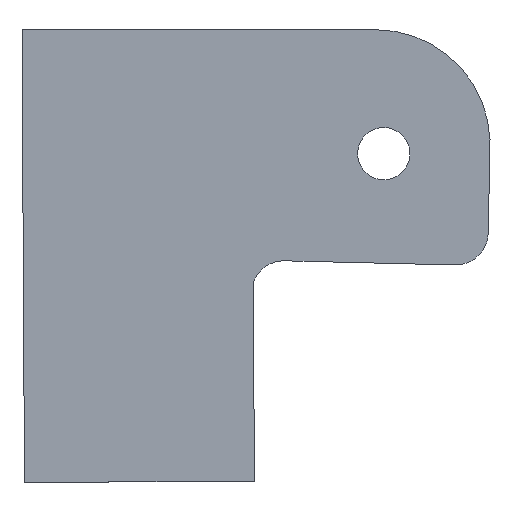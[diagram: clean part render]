
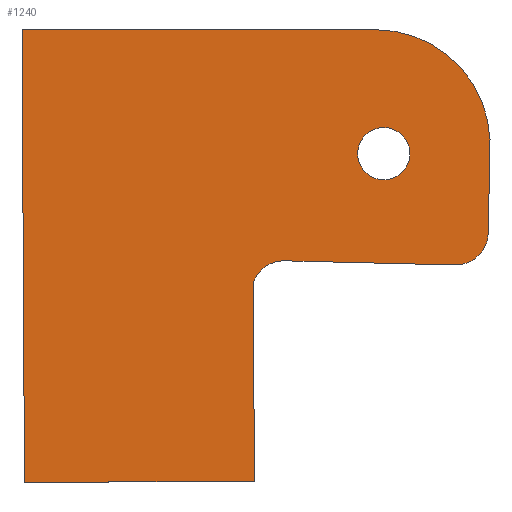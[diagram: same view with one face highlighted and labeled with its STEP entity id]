
A CAD part, left-side view. The second image highlights one B-rep face of the part: STEP entity #1240.
In plain terms, the highlighted planar face has unit normal (-1, 0, 0).
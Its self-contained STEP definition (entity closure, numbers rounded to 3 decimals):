
#42=FACE_BOUND('',#162,.T.);
#69=CIRCLE('',#1329,2.);
#70=CIRCLE('',#1330,2.);
#71=CIRCLE('',#1331,7.);
#72=CIRCLE('',#1332,1.6);
#93=FACE_OUTER_BOUND('',#161,.T.);
#161=EDGE_LOOP('',(#862,#863,#864,#865,#866,#867,#868,#869,#870,#871,#872));
#162=EDGE_LOOP('',(#873));
#259=LINE('',#1881,#400);
#260=LINE('',#1885,#401);
#261=LINE('',#1889,#402);
#262=LINE('',#1893,#403);
#263=LINE('',#1895,#404);
#264=LINE('',#1897,#405);
#265=LINE('',#1899,#406);
#266=LINE('',#1900,#407);
#400=VECTOR('',#1493,10.);
#401=VECTOR('',#1496,10.);
#402=VECTOR('',#1499,10.);
#403=VECTOR('',#1502,10.);
#404=VECTOR('',#1503,10.);
#405=VECTOR('',#1504,10.);
#406=VECTOR('',#1505,10.);
#407=VECTOR('',#1506,10.);
#544=VERTEX_POINT('',#1879);
#545=VERTEX_POINT('',#1880);
#546=VERTEX_POINT('',#1882);
#547=VERTEX_POINT('',#1884);
#548=VERTEX_POINT('',#1886);
#549=VERTEX_POINT('',#1888);
#550=VERTEX_POINT('',#1890);
#551=VERTEX_POINT('',#1892);
#552=VERTEX_POINT('',#1894);
#553=VERTEX_POINT('',#1896);
#554=VERTEX_POINT('',#1898);
#555=VERTEX_POINT('',#1901);
#671=EDGE_CURVE('',#544,#545,#259,.T.);
#672=EDGE_CURVE('',#545,#546,#69,.T.);
#673=EDGE_CURVE('',#546,#547,#260,.T.);
#674=EDGE_CURVE('',#547,#548,#70,.T.);
#675=EDGE_CURVE('',#548,#549,#261,.T.);
#676=EDGE_CURVE('',#549,#550,#71,.T.);
#677=EDGE_CURVE('',#550,#551,#262,.T.);
#678=EDGE_CURVE('',#552,#551,#263,.T.);
#679=EDGE_CURVE('',#553,#552,#264,.T.);
#680=EDGE_CURVE('',#554,#553,#265,.T.);
#681=EDGE_CURVE('',#554,#544,#266,.T.);
#682=EDGE_CURVE('',#555,#555,#72,.T.);
#862=ORIENTED_EDGE('',*,*,#671,.T.);
#863=ORIENTED_EDGE('',*,*,#672,.T.);
#864=ORIENTED_EDGE('',*,*,#673,.T.);
#865=ORIENTED_EDGE('',*,*,#674,.T.);
#866=ORIENTED_EDGE('',*,*,#675,.T.);
#867=ORIENTED_EDGE('',*,*,#676,.T.);
#868=ORIENTED_EDGE('',*,*,#677,.T.);
#869=ORIENTED_EDGE('',*,*,#678,.F.);
#870=ORIENTED_EDGE('',*,*,#679,.F.);
#871=ORIENTED_EDGE('',*,*,#680,.F.);
#872=ORIENTED_EDGE('',*,*,#681,.T.);
#873=ORIENTED_EDGE('',*,*,#682,.T.);
#1190=PLANE('',#1328);
#1240=ADVANCED_FACE('',(#93,#42),#1190,.T.);
#1328=AXIS2_PLACEMENT_3D('',#1878,#1491,#1492);
#1329=AXIS2_PLACEMENT_3D('',#1883,#1494,#1495);
#1330=AXIS2_PLACEMENT_3D('',#1887,#1497,#1498);
#1331=AXIS2_PLACEMENT_3D('',#1891,#1500,#1501);
#1332=AXIS2_PLACEMENT_3D('',#1902,#1507,#1508);
#1491=DIRECTION('center_axis',(-1.,0.,0.));
#1492=DIRECTION('ref_axis',(0.,-1.,0.));
#1493=DIRECTION('',(0.,0.005,1.));
#1494=DIRECTION('center_axis',(1.,0.,0.));
#1495=DIRECTION('ref_axis',(0.,0.992,0.124));
#1496=DIRECTION('',(0.,-1.,-0.024));
#1497=DIRECTION('center_axis',(-1.,0.,0.));
#1498=DIRECTION('ref_axis',(0.,0.024,-1.));
#1499=DIRECTION('',(0.,-0.018,1.));
#1500=DIRECTION('center_axis',(-1.,0.,0.));
#1501=DIRECTION('ref_axis',(0.,-1.,0.));
#1502=DIRECTION('',(0.,1.,0.));
#1503=DIRECTION('',(0.,-0.005,-1.));
#1504=DIRECTION('',(0.,-1.,0.005));
#1505=DIRECTION('',(0.,0.005,1.));
#1506=DIRECTION('',(0.,-1.,0.005));
#1507=DIRECTION('center_axis',(1.,0.,0.));
#1508=DIRECTION('ref_axis',(0.,-1.,0.));
#1878=CARTESIAN_POINT('Origin',(-34.04,-7.695,18.646));
#1879=CARTESIAN_POINT('',(-34.04,-9.978,4.383));
#1880=CARTESIAN_POINT('',(-34.04,-9.912,16.537));
#1881=CARTESIAN_POINT('',(-34.04,-9.902,18.405));
#1882=CARTESIAN_POINT('',(-34.04,-11.845,17.864));
#1883=CARTESIAN_POINT('Origin',(-34.04,-11.796,15.865));
#1884=CARTESIAN_POINT('',(-34.04,-22.238,17.61));
#1885=CARTESIAN_POINT('',(-34.04,-22.238,17.61));
#1886=CARTESIAN_POINT('',(-34.04,-24.287,19.573));
#1887=CARTESIAN_POINT('Origin',(-34.04,-22.287,19.609));
#1888=CARTESIAN_POINT('',(-34.04,-24.391,25.283));
#1889=CARTESIAN_POINT('',(-34.04,-24.396,25.598));
#1890=CARTESIAN_POINT('',(-34.04,-17.396,32.));
#1891=CARTESIAN_POINT('Origin',(-34.04,-17.396,25.));
#1892=CARTESIAN_POINT('',(-34.04,1.939,32.));
#1893=CARTESIAN_POINT('',(-34.04,2.,32.));
#1894=CARTESIAN_POINT('',(-34.04,1.939,32.012));
#1895=CARTESIAN_POINT('',(-34.04,1.937,31.678));
#1896=CARTESIAN_POINT('',(-34.04,4.237,31.999));
#1897=CARTESIAN_POINT('',(-34.04,4.139,32.));
#1898=CARTESIAN_POINT('',(-34.04,4.086,4.306));
#1899=CARTESIAN_POINT('',(-34.04,4.111,8.928));
#1900=CARTESIAN_POINT('',(-34.04,-12.321,4.396));
#1901=CARTESIAN_POINT('',(-34.04,-16.296,24.414));
#1902=CARTESIAN_POINT('Origin',(-34.04,-17.896,24.414));
